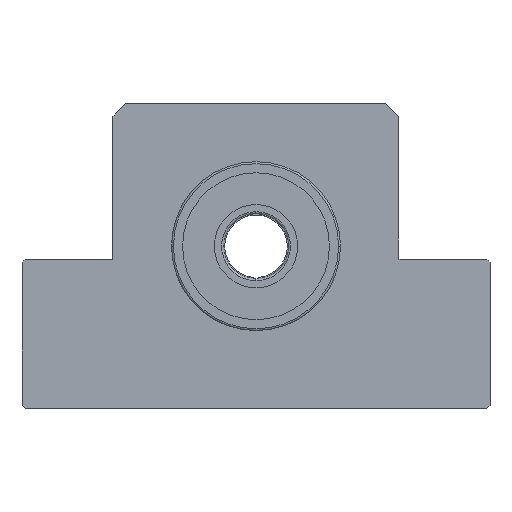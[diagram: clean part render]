
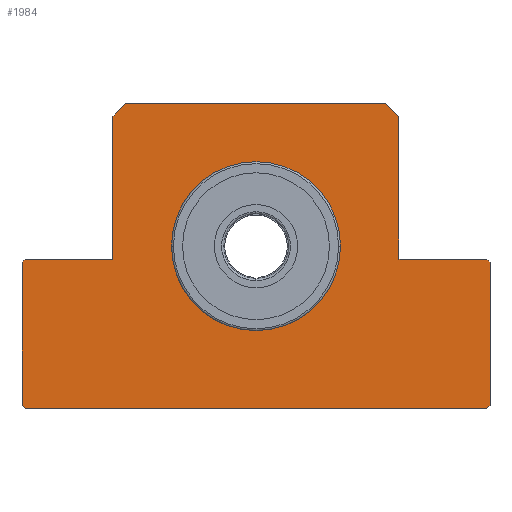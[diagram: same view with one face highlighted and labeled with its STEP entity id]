
A CAD part, top view. The second image highlights one B-rep face of the part: STEP entity #1984.
In plain terms, the highlighted planar face has unit normal (0, 0, 1).
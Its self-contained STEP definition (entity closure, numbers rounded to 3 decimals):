
#16 = LINE ( 'NONE', #2932, #2349 ) ;
#50 = VERTEX_POINT ( 'NONE', #1215 ) ;
#59 = CARTESIAN_POINT ( 'NONE',  ( 36., -2.5, 20. ) ) ;
#104 = CARTESIAN_POINT ( 'NONE',  ( 35.75, -2.25, 20. ) ) ;
#122 = CARTESIAN_POINT ( 'NONE',  ( 35.5, -2., 20. ) ) ;
#130 = LINE ( 'NONE', #2570, #2332 ) ;
#133 = CIRCLE ( 'NONE', #3057, 13. ) ;
#146 = ORIENTED_EDGE ( 'NONE', *, *, #2452, .T. ) ;
#150 = EDGE_CURVE ( 'NONE', #596, #3239, #130, .T. ) ;
#154 = DIRECTION ( 'NONE',  ( -0.707, 0.707, 0. ) ) ;
#179 = DIRECTION ( 'NONE',  ( 1., 0., 0. ) ) ;
#201 = EDGE_CURVE ( 'NONE', #337, #2389, #1870, .T. ) ;
#205 = EDGE_CURVE ( 'NONE', #943, #337, #1378, .T. ) ;
#229 = VERTEX_POINT ( 'NONE', #562 ) ;
#337 = VERTEX_POINT ( 'NONE', #2018 ) ;
#374 = VERTEX_POINT ( 'NONE', #438 ) ;
#387 = VERTEX_POINT ( 'NONE', #122 ) ;
#388 = EDGE_CURVE ( 'NONE', #2895, #387, #1168, .T. ) ;
#438 = CARTESIAN_POINT ( 'NONE',  ( -35.5, -25., 20. ) ) ;
#439 = ORIENTED_EDGE ( 'NONE', *, *, #205, .T. ) ;
#558 = FACE_BOUND ( 'NONE', #1199, .T. ) ;
#562 = CARTESIAN_POINT ( 'NONE',  ( 36., -2.5, 20. ) ) ;
#589 = LINE ( 'NONE', #59, #2177 ) ;
#596 = VERTEX_POINT ( 'NONE', #1088 ) ;
#664 = DIRECTION ( 'NONE',  ( 0., 1., 0. ) ) ;
#736 = LINE ( 'NONE', #1542, #1028 ) ;
#770 = ORIENTED_EDGE ( 'NONE', *, *, #1811, .T. ) ;
#772 = DIRECTION ( 'NONE',  ( -1., 0., 0. ) ) ;
#774 = ORIENTED_EDGE ( 'NONE', *, *, #2789, .T. ) ;
#785 = ORIENTED_EDGE ( 'NONE', *, *, #150, .T. ) ;
#792 = CARTESIAN_POINT ( 'NONE',  ( -36., -2.5, 20. ) ) ;
#886 = VECTOR ( 'NONE', #2510, 1000. ) ;
#887 = EDGE_CURVE ( 'NONE', #3239, #3305, #2325, .T. ) ;
#909 = VECTOR ( 'NONE', #2269, 1000. ) ;
#928 = ORIENTED_EDGE ( 'NONE', *, *, #887, .T. ) ;
#943 = VERTEX_POINT ( 'NONE', #2625 ) ;
#983 = DIRECTION ( 'NONE',  ( 0., 0., 1. ) ) ;
#985 = CARTESIAN_POINT ( 'NONE',  ( 36., -24.5, 20. ) ) ;
#998 = LINE ( 'NONE', #3096, #1956 ) ;
#1022 = AXIS2_PLACEMENT_3D ( 'NONE', #1875, #2680, #3184 ) ;
#1025 = CARTESIAN_POINT ( 'NONE',  ( 13., 0., 20. ) ) ;
#1028 = VECTOR ( 'NONE', #3132, 1000. ) ;
#1046 = DIRECTION ( 'NONE',  ( 1., 0., 0. ) ) ;
#1056 = ORIENTED_EDGE ( 'NONE', *, *, #201, .T. ) ;
#1064 = EDGE_CURVE ( 'NONE', #3305, #943, #2076, .T. ) ;
#1072 = EDGE_CURVE ( 'NONE', #2682, #1399, #2560, .T. ) ;
#1088 = CARTESIAN_POINT ( 'NONE',  ( -20., 22., 20. ) ) ;
#1126 = CIRCLE ( 'NONE', #2476, 13. ) ;
#1134 = LINE ( 'NONE', #1208, #909 ) ;
#1138 = DIRECTION ( 'NONE',  ( -0.707, -0.707, 0. ) ) ;
#1168 = LINE ( 'NONE', #2223, #886 ) ;
#1174 = DIRECTION ( 'NONE',  ( -0.707, -0.707, 0. ) ) ;
#1189 = DIRECTION ( 'NONE',  ( -1., 0., 0. ) ) ;
#1199 = EDGE_LOOP ( 'NONE', ( #1738, #3046 ) ) ;
#1204 = CARTESIAN_POINT ( 'NONE',  ( 20., 22., 20. ) ) ;
#1208 = CARTESIAN_POINT ( 'NONE',  ( 36., -24.5, 20. ) ) ;
#1215 = CARTESIAN_POINT ( 'NONE',  ( -36., -24.5, 20. ) ) ;
#1235 = DIRECTION ( 'NONE',  ( -1., 0., 0. ) ) ;
#1256 = ORIENTED_EDGE ( 'NONE', *, *, #2800, .T. ) ;
#1310 = CARTESIAN_POINT ( 'NONE',  ( 20., 22., 20. ) ) ;
#1368 = EDGE_LOOP ( 'NONE', ( #1527, #1887, #2470, #1741, #774, #785, #928, #1576, #439, #1056, #1777, #146, #1256, #770, #1913, #3070 ) ) ;
#1369 = DIRECTION ( 'NONE',  ( -0.707, 0.707, 0. ) ) ;
#1378 = LINE ( 'NONE', #2923, #3251 ) ;
#1391 = CARTESIAN_POINT ( 'NONE',  ( -22., -2., 20. ) ) ;
#1399 = VERTEX_POINT ( 'NONE', #1310 ) ;
#1471 = VERTEX_POINT ( 'NONE', #2556 ) ;
#1507 = DIRECTION ( 'NONE',  ( 1., 0., 0. ) ) ;
#1527 = ORIENTED_EDGE ( 'NONE', *, *, #388, .T. ) ;
#1538 = VERTEX_POINT ( 'NONE', #985 ) ;
#1542 = CARTESIAN_POINT ( 'NONE',  ( -36., -24.5, 20. ) ) ;
#1564 = VECTOR ( 'NONE', #3102, 1000. ) ;
#1565 = CARTESIAN_POINT ( 'NONE',  ( 22., -2., 20. ) ) ;
#1568 = PLANE ( 'NONE',  #1022 ) ;
#1576 = ORIENTED_EDGE ( 'NONE', *, *, #1064, .T. ) ;
#1593 = VERTEX_POINT ( 'NONE', #1565 ) ;
#1738 = ORIENTED_EDGE ( 'NONE', *, *, #3146, .F. ) ;
#1741 = ORIENTED_EDGE ( 'NONE', *, *, #1072, .T. ) ;
#1777 = ORIENTED_EDGE ( 'NONE', *, *, #1919, .T. ) ;
#1780 = VECTOR ( 'NONE', #154, 1000. ) ;
#1811 = EDGE_CURVE ( 'NONE', #2231, #1538, #2227, .T. ) ;
#1832 = DIRECTION ( 'NONE',  ( 0., -1., 0. ) ) ;
#1850 = FACE_OUTER_BOUND ( 'NONE', #1368, .T. ) ;
#1870 = LINE ( 'NONE', #2399, #2831 ) ;
#1875 = CARTESIAN_POINT ( 'NONE',  ( 0., 0., 20. ) ) ;
#1887 = ORIENTED_EDGE ( 'NONE', *, *, #2446, .T. ) ;
#1891 = CARTESIAN_POINT ( 'NONE',  ( -22., 20., 20. ) ) ;
#1913 = ORIENTED_EDGE ( 'NONE', *, *, #3018, .T. ) ;
#1919 = EDGE_CURVE ( 'NONE', #2389, #50, #16, .T. ) ;
#1956 = VECTOR ( 'NONE', #772, 1000. ) ;
#1958 = CARTESIAN_POINT ( 'NONE',  ( 35.5, -25., 20. ) ) ;
#1959 = VECTOR ( 'NONE', #664, 1000. ) ;
#1967 = CARTESIAN_POINT ( 'NONE',  ( 22., -2., 20. ) ) ;
#1984 = ADVANCED_FACE ( 'NONE', ( #1850, #558 ), #1568, .T. ) ;
#2008 = CARTESIAN_POINT ( 'NONE',  ( -35.5, -25., 20. ) ) ;
#2015 = CARTESIAN_POINT ( 'NONE',  ( 22., 20., 20. ) ) ;
#2018 = CARTESIAN_POINT ( 'NONE',  ( -35.75, -2.25, 20. ) ) ;
#2054 = VECTOR ( 'NONE', #2279, 1000. ) ;
#2070 = VECTOR ( 'NONE', #1507, 1000. ) ;
#2076 = LINE ( 'NONE', #3055, #2500 ) ;
#2177 = VECTOR ( 'NONE', #1369, 1000. ) ;
#2201 = CARTESIAN_POINT ( 'NONE',  ( 35.5, -25., 20. ) ) ;
#2223 = CARTESIAN_POINT ( 'NONE',  ( 35.75, -2.25, 20. ) ) ;
#2227 = LINE ( 'NONE', #1958, #1564 ) ;
#2231 = VERTEX_POINT ( 'NONE', #2201 ) ;
#2245 = EDGE_CURVE ( 'NONE', #3133, #1471, #133, .T. ) ;
#2264 = LINE ( 'NONE', #2008, #2070 ) ;
#2269 = DIRECTION ( 'NONE',  ( 0., 1., 0. ) ) ;
#2279 = DIRECTION ( 'NONE',  ( 0., -1., 0. ) ) ;
#2325 = LINE ( 'NONE', #2881, #2054 ) ;
#2332 = VECTOR ( 'NONE', #1174, 1000. ) ;
#2349 = VECTOR ( 'NONE', #1832, 1000. ) ;
#2389 = VERTEX_POINT ( 'NONE', #792 ) ;
#2399 = CARTESIAN_POINT ( 'NONE',  ( -35.75, -2.25, 20. ) ) ;
#2435 = DIRECTION ( 'NONE',  ( -0.707, -0.707, 0. ) ) ;
#2446 = EDGE_CURVE ( 'NONE', #387, #1593, #998, .T. ) ;
#2452 = EDGE_CURVE ( 'NONE', #50, #374, #736, .T. ) ;
#2470 = ORIENTED_EDGE ( 'NONE', *, *, #2950, .T. ) ;
#2476 = AXIS2_PLACEMENT_3D ( 'NONE', #2819, #3336, #1046 ) ;
#2500 = VECTOR ( 'NONE', #1235, 1000. ) ;
#2510 = DIRECTION ( 'NONE',  ( -0.707, 0.707, 0. ) ) ;
#2552 = CARTESIAN_POINT ( 'NONE',  ( 0., 0., 20. ) ) ;
#2556 = CARTESIAN_POINT ( 'NONE',  ( -13., 0., 20. ) ) ;
#2560 = LINE ( 'NONE', #2015, #1780 ) ;
#2570 = CARTESIAN_POINT ( 'NONE',  ( -20., 22., 20. ) ) ;
#2625 = CARTESIAN_POINT ( 'NONE',  ( -35.5, -2., 20. ) ) ;
#2680 = DIRECTION ( 'NONE',  ( 0., 0., 1. ) ) ;
#2682 = VERTEX_POINT ( 'NONE', #3222 ) ;
#2739 = VECTOR ( 'NONE', #1189, 1000. ) ;
#2789 = EDGE_CURVE ( 'NONE', #1399, #596, #3078, .T. ) ;
#2800 = EDGE_CURVE ( 'NONE', #374, #2231, #2264, .T. ) ;
#2819 = CARTESIAN_POINT ( 'NONE',  ( 0., 0., 20. ) ) ;
#2831 = VECTOR ( 'NONE', #1138, 1000. ) ;
#2881 = CARTESIAN_POINT ( 'NONE',  ( -22., 20., 20. ) ) ;
#2895 = VERTEX_POINT ( 'NONE', #104 ) ;
#2923 = CARTESIAN_POINT ( 'NONE',  ( -35.5, -2., 20. ) ) ;
#2932 = CARTESIAN_POINT ( 'NONE',  ( -36., -2.5, 20. ) ) ;
#2950 = EDGE_CURVE ( 'NONE', #1593, #2682, #3236, .T. ) ;
#3018 = EDGE_CURVE ( 'NONE', #1538, #229, #1134, .T. ) ;
#3046 = ORIENTED_EDGE ( 'NONE', *, *, #2245, .F. ) ;
#3055 = CARTESIAN_POINT ( 'NONE',  ( -22., -2., 20. ) ) ;
#3057 = AXIS2_PLACEMENT_3D ( 'NONE', #2552, #983, #179 ) ;
#3070 = ORIENTED_EDGE ( 'NONE', *, *, #3273, .T. ) ;
#3078 = LINE ( 'NONE', #1204, #2739 ) ;
#3096 = CARTESIAN_POINT ( 'NONE',  ( 35.5, -2., 20. ) ) ;
#3102 = DIRECTION ( 'NONE',  ( 0.707, 0.707, 0. ) ) ;
#3132 = DIRECTION ( 'NONE',  ( 0.707, -0.707, 0. ) ) ;
#3133 = VERTEX_POINT ( 'NONE', #1025 ) ;
#3146 = EDGE_CURVE ( 'NONE', #1471, #3133, #1126, .T. ) ;
#3184 = DIRECTION ( 'NONE',  ( 1., 0., 0. ) ) ;
#3222 = CARTESIAN_POINT ( 'NONE',  ( 22., 20., 20. ) ) ;
#3236 = LINE ( 'NONE', #1967, #1959 ) ;
#3239 = VERTEX_POINT ( 'NONE', #1891 ) ;
#3251 = VECTOR ( 'NONE', #2435, 1000. ) ;
#3273 = EDGE_CURVE ( 'NONE', #229, #2895, #589, .T. ) ;
#3305 = VERTEX_POINT ( 'NONE', #1391 ) ;
#3336 = DIRECTION ( 'NONE',  ( 0., 0., 1. ) ) ;
